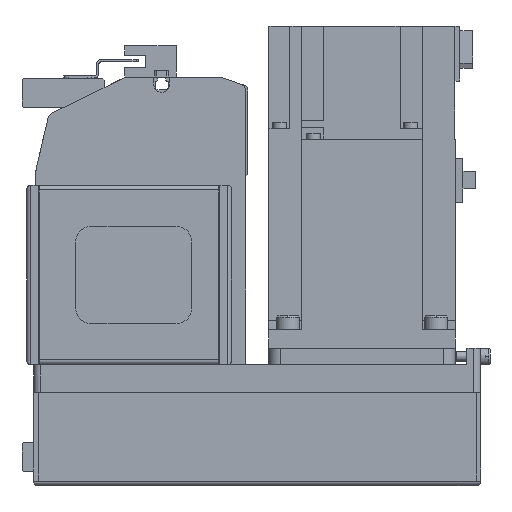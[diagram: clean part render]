
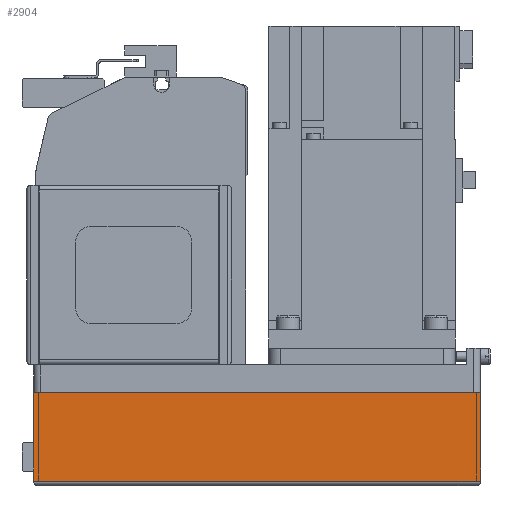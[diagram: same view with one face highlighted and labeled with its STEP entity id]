
A CAD part, left-side view. The second image highlights one B-rep face of the part: STEP entity #2904.
In plain terms, the highlighted planar face has unit normal (-1, 0, 0) as drawn and (0, 1, 0) by its records, which use the part's own axes.
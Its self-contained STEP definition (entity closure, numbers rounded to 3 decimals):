
#2904 = ADVANCED_FACE( '', ( #5965 ), #5966, .T. );
#5965 = FACE_OUTER_BOUND( '', #9025, .T. );
#5966 = PLANE( '', #9026 );
#9025 = EDGE_LOOP( '', ( #17216, #17217, #17218, #17219 ) );
#9026 = AXIS2_PLACEMENT_3D( '', #17220, #17221, #17222 );
#17216 = ORIENTED_EDGE( '', *, *, #20470, .F. );
#17217 = ORIENTED_EDGE( '', *, *, #20623, .F. );
#17218 = ORIENTED_EDGE( '', *, *, #19047, .T. );
#17219 = ORIENTED_EDGE( '', *, *, #20674, .T. );
#17220 = CARTESIAN_POINT( '', ( -192., 40., -50. ) );
#17221 = DIRECTION( '', ( 0., 1., 0. ) );
#17222 = DIRECTION( '', ( 0., 0., 1. ) );
#19047 = EDGE_CURVE( '', #23337, #22287, #23341, .T. );
#20470 = EDGE_CURVE( '', #25330, #24609, #25332, .T. );
#20623 = EDGE_CURVE( '', #23337, #25330, #25513, .T. );
#20674 = EDGE_CURVE( '', #22287, #24609, #25572, .T. );
#22287 = VERTEX_POINT( '', #27657 );
#23337 = VERTEX_POINT( '', #29127 );
#23341 = LINE( '', #29133, #29134 );
#24609 = VERTEX_POINT( '', #30991 );
#25330 = VERTEX_POINT( '', #32031 );
#25332 = LINE( '', #32034, #32035 );
#25513 = LINE( '', #32322, #32323 );
#25572 = LINE( '', #32403, #32404 );
#27657 = CARTESIAN_POINT( '', ( -192., 40., -12.1 ) );
#29127 = CARTESIAN_POINT( '', ( -192., 40., -50. ) );
#29133 = CARTESIAN_POINT( '', ( -192., 40., -50. ) );
#29134 = VECTOR( '', #34616, 1000. );
#30991 = CARTESIAN_POINT( '', ( 0., 40., -12.1 ) );
#32031 = CARTESIAN_POINT( '', ( 0., 40., -50. ) );
#32034 = CARTESIAN_POINT( '', ( 0., 40., -50. ) );
#32035 = VECTOR( '', #36253, 1000. );
#32322 = CARTESIAN_POINT( '', ( -192., 40., -50. ) );
#32323 = VECTOR( '', #36415, 1000. );
#32403 = CARTESIAN_POINT( '', ( -192., 40., -12.1 ) );
#32404 = VECTOR( '', #36455, 1000. );
#34616 = DIRECTION( '', ( 0., 0., 1. ) );
#36253 = DIRECTION( '', ( 0., 0., 1. ) );
#36415 = DIRECTION( '', ( 1., 0., 0. ) );
#36455 = DIRECTION( '', ( 1., 0., 0. ) );
